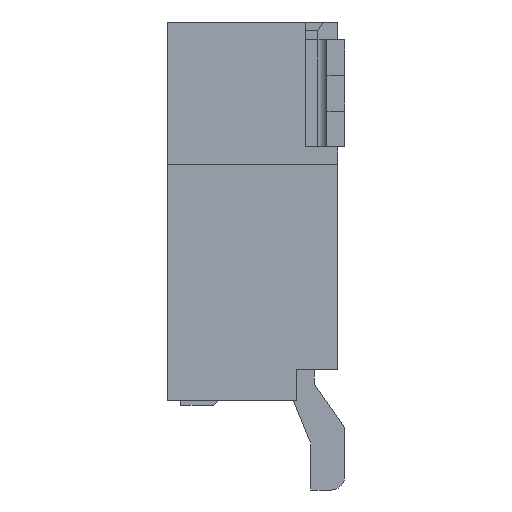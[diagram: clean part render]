
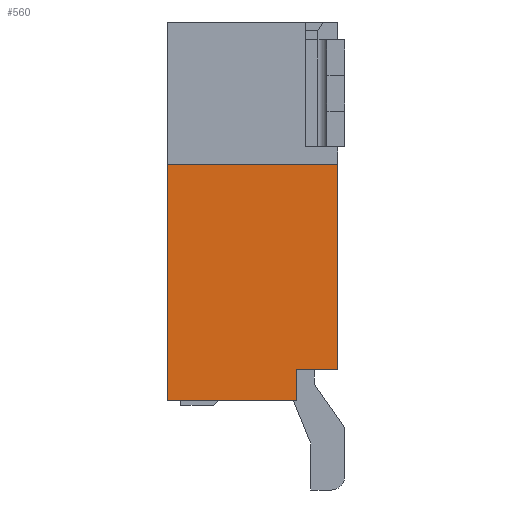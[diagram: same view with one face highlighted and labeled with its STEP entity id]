
A CAD part, left-side view. The second image highlights one B-rep face of the part: STEP entity #560.
In plain terms, the highlighted planar face has unit normal (-1, 0, 0).
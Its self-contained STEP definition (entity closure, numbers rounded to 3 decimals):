
#10=CARTESIAN_POINT('',(-20.55,0.955,-2.925));
#20=DIRECTION('',(1.,0.,0.));
#30=DIRECTION('',(0.,0.,-1.));
#40=AXIS2_PLACEMENT_3D('',#10,#20,#30);
#50=PLANE('',#40);
#60=CARTESIAN_POINT('',(-20.55,0.,-3.9));
#70=DIRECTION('',(0.,0.,1.));
#80=VECTOR('',#70,1.);
#90=LINE('',#60,#80);
#100=CARTESIAN_POINT('',(-20.55,0.,-3.9));
#110=VERTEX_POINT('',#100);
#120=CARTESIAN_POINT('',(-20.55,0.,-1.6));
#130=VERTEX_POINT('',#120);
#140=EDGE_CURVE('',#110,#130,#90,.T.);
#150=ORIENTED_EDGE('',*,*,#140,.T.);
#160=CARTESIAN_POINT('',(-20.55,0.46,-3.9));
#170=DIRECTION('',(0.,-1.,0.));
#180=VECTOR('',#170,1.);
#190=LINE('',#160,#180);
#200=CARTESIAN_POINT('',(-20.55,0.46,-3.9));
#210=VERTEX_POINT('',#200);
#220=EDGE_CURVE('',#210,#110,#190,.T.);
#230=ORIENTED_EDGE('',*,*,#220,.T.);
#240=CARTESIAN_POINT('',(-20.55,0.46,-4.25));
#250=DIRECTION('',(0.,0.,1.));
#260=VECTOR('',#250,1.);
#270=LINE('',#240,#260);
#280=CARTESIAN_POINT('',(-20.55,0.46,-4.25));
#290=VERTEX_POINT('',#280);
#300=EDGE_CURVE('',#290,#210,#270,.T.);
#310=ORIENTED_EDGE('',*,*,#300,.T.);
#320=CARTESIAN_POINT('',(-20.55,1.91,-4.25));
#330=DIRECTION('',(0.,-1.,0.));
#340=VECTOR('',#330,1.);
#350=LINE('',#320,#340);
#360=CARTESIAN_POINT('',(-20.55,1.91,-4.25));
#370=VERTEX_POINT('',#360);
#380=EDGE_CURVE('',#370,#290,#350,.T.);
#390=ORIENTED_EDGE('',*,*,#380,.T.);
#400=CARTESIAN_POINT('',(-20.55,1.91,-1.6));
#410=DIRECTION('',(0.,0.,-1.));
#420=VECTOR('',#410,1.);
#430=LINE('',#400,#420);
#440=CARTESIAN_POINT('',(-20.55,1.91,-1.6));
#450=VERTEX_POINT('',#440);
#460=EDGE_CURVE('',#450,#370,#430,.T.);
#470=ORIENTED_EDGE('',*,*,#460,.T.);
#480=CARTESIAN_POINT('',(-20.55,0.,-1.6));
#490=DIRECTION('',(0.,1.,0.));
#500=VECTOR('',#490,1.);
#510=LINE('',#480,#500);
#520=EDGE_CURVE('',#130,#450,#510,.T.);
#530=ORIENTED_EDGE('',*,*,#520,.T.);
#540=EDGE_LOOP('',(#530,#470,#390,#310,#230,#150));
#550=FACE_OUTER_BOUND('',#540,.T.);
#560=ADVANCED_FACE('',(#550),#50,.F.);
